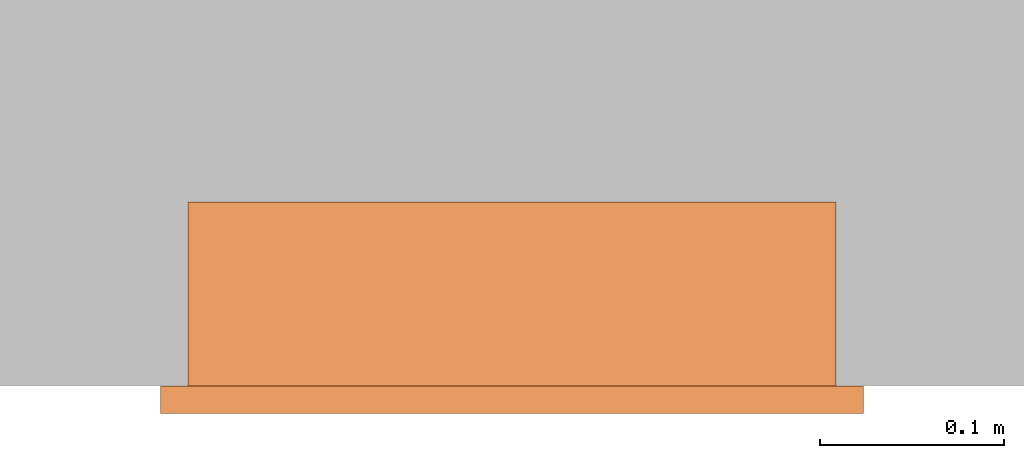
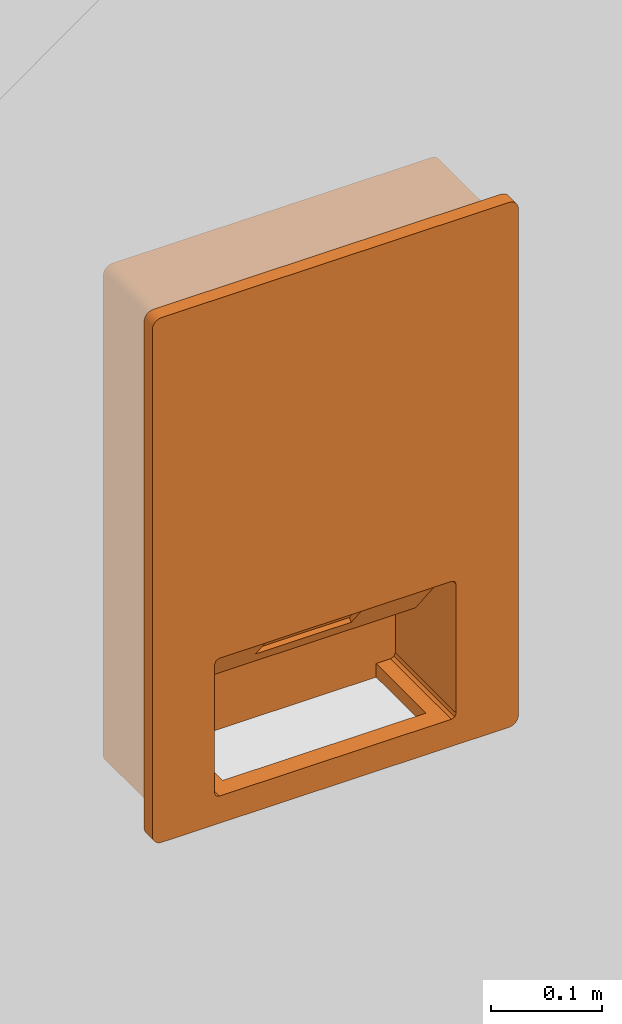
# One storey, part 2 of 2: 1 proxy.
"""IFC2X3 building model written with IfcOpenShell, lengths in millimetres."""

from ifc_helpers import new_model, entity, si_unit, converted_unit, derived_unit, direction, frame, origin, place, context, subcontext, project, spatial, faceted_brep, source, transform, mapped, material, element, save


model = new_model("IFC2X3")

# Units and contexts
model_context = context("Model", 3, precision=0.01, world=origin(), true_north=direction((6.12303176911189e-17, 1.0)))
context_of_model = context(None, 3, precision=0.01, world=origin(), true_north=direction((6.12303176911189e-17, 1.0)))
body_context = subcontext(model_context, "Body", "Model", "MODEL_VIEW")
ifc_project = project(units=[si_unit("LENGTHUNIT", "METRE", prefix="MILLI"), si_unit("AREAUNIT", "SQUARE_METRE"), si_unit("VOLUMEUNIT", "CUBIC_METRE"), converted_unit("PLANEANGLEUNIT", "DEGREE", entity("IfcRatioMeasure", 0.0174532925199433), si_unit("PLANEANGLEUNIT", "RADIAN"), dimensions=[0, 0, 0, 0, 0, 0, 0]), si_unit("MASSUNIT", "GRAM", prefix="KILO"), si_unit("TIMEUNIT", "SECOND"), si_unit("FREQUENCYUNIT", "HERTZ"), si_unit("THERMODYNAMICTEMPERATUREUNIT", "DEGREE_CELSIUS"), derived_unit("THERMALTRANSMITTANCEUNIT", [(si_unit("MASSUNIT", "GRAM", prefix="KILO"), 1), (si_unit("THERMODYNAMICTEMPERATUREUNIT", "KELVIN"), -1), (si_unit("TIMEUNIT", "SECOND"), -3)]), derived_unit("VOLUMETRICFLOWRATEUNIT", [(si_unit("LENGTHUNIT", "METRE"), 3), (si_unit("TIMEUNIT", "SECOND"), -1)]), si_unit("ELECTRICCURRENTUNIT", "AMPERE"), si_unit("ELECTRICVOLTAGEUNIT", "VOLT"), si_unit("POWERUNIT", "WATT"), si_unit("FORCEUNIT", "NEWTON", prefix="KILO"), si_unit("ILLUMINANCEUNIT", "LUX"), si_unit("LUMINOUSFLUXUNIT", "LUMEN"), si_unit("LUMINOUSINTENSITYUNIT", "CANDELA"), si_unit("PRESSUREUNIT", "PASCAL")], contexts=[model_context, context_of_model])

# Site, building, storey
site_placement = place(None, origin())
site = spatial("IfcSite", under=ifc_project, at=site_placement, Name="Default", CompositionType="ELEMENT")
building_placement = place(site_placement, origin())
building = spatial("IfcBuilding", under=site, at=building_placement, CompositionType="ELEMENT")
storey_placement = place(building_placement, origin())
storey = spatial("IfcBuildingStorey", under=building, at=storey_placement, Name="Level 0", CompositionType="ELEMENT", Elevation=0.0)

# Proxy
ifc_material = material(Name="Duten_Metal_BrushedStainlessSteel")
shared_shape = source(origin(), body_context, "Body", "Brep", [
    faceted_brep([(126.0, -182.852540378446, -58.5048094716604), (126.0, -182.852540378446, -95.0), (126.0, -172.852540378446, -95.0), (126.0, -172.852540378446, -64.2783121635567), (126.0, -107.500000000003, -11.5470053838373), (126.0, -107.500000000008, 0.0), (-126.0, -182.852540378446, -58.5048094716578), (-126.0, -107.500000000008, 0.0), (-126.0, -107.500000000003, -11.5470053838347), (-126.0, -172.852540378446, -64.2783121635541), (-126.0, -172.852540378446, -95.0), (-126.0, -182.852540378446, -95.0), (50.0, -122.833516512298, -11.9051654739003), (50.0, -162.714244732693, -42.8691435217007), (-50.0, -162.714244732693, -42.8691435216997), (-50.0, -122.833516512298, -11.9051654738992), (50.0, -119.879952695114, -15.7092721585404), (50.0, -159.760680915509, -46.6732502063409), (-50.0, -159.760680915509, -46.6732502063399), (-50.0, -119.879952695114, -15.7092721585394)], [[[0, 1, 2, 3, 4, 5]], [[6, 7, 8, 9, 10, 11]], [[1, 0, 6, 11]], [[3, 2, 10, 9]], [[4, 3, 9, 8]], [[5, 4, 8, 7]], [[0, 5, 7, 6], [12, 13, 14, 15]], [[12, 16, 17, 13]], [[14, 18, 19, 15]], [[13, 17, 18, 14]], [[17, 16, 19, 18]], [[16, 12, 15, 19]], [[2, 1, 11, 10]]]),
    faceted_brep([(-126.0, -112.500000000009, -95.0), (-126.0, -254.500000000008, -95.0), (-124.535533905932, -258.035533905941, -95.0), (-121.0, -259.500000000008, -95.0), (-106.0, -259.500000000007, -95.0), (-106.0, -274.500000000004, -95.0), (106.0, -274.500000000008, -95.0), (106.0, -259.500000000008, -95.0), (121.0, -259.500000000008, -95.0), (124.535533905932, -258.035533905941, -95.0), (126.0, -254.500000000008, -95.0), (126.0, -112.500000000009, -95.0), (124.535533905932, -108.964466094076, -95.0), (121.0, -107.500000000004, -95.0), (-121.0, -107.500000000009, -95.0), (-124.535533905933, -108.964466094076, -95.0), (-121.0, -107.500000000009, 0.0), (-121.0, -107.500000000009, -39.0384442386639), (-121.0, -107.500000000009, -55.9615557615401), (121.0, -107.500000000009, -55.9615555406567), (121.0, -107.500000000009, -39.0384444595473), (121.0, -107.500000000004, 0.0), (-126.0, -254.500000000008, 0.0), (-126.0, -254.500000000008, -39.038444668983), (-126.0, -254.500000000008, -55.9615560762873), (-126.0, -112.500000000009, -47.500000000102), (-126.0, -112.500000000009, 0.0), (106.0, -259.500000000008, -5.0), (-106.0, -259.500000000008, -5.0), (-121.0, -259.500000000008, -47.4999994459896), (-121.0, -259.500000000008, 0.0), (121.0, -259.500000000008, 0.0), (121.0, -259.500000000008, -39.0384455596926), (121.0, -259.500000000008, -55.9615576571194), (126.0, -112.500000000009, 0.0), (126.0, -112.500000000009, -47.500000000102), (126.0, -254.500000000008, -47.4999994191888), (126.0, -254.500000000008, 0.0), (174.660254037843, 269.499999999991, 0.0), (173.071067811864, 271.571067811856, 0.0), (168.588190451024, 274.159258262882, 0.0), (166.0, 274.499999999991, 0.0), (175.659258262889, 267.088190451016, 0.0), (171.0, 273.160254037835, 0.0), (176.0, 264.499999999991, 0.0), (-166.0, 274.499999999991, 0.0), (-176.0, 264.499999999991, 0.0), (-175.659258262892, 267.088190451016, 0.0), (-174.660254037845, 269.499999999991, 0.0), (-168.588190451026, 274.159258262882, 0.0), (-173.071067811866, 271.571067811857, 0.0), (-171.0, 273.160254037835, 0.0), (-124.535533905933, -108.964466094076, 0.0), (-176.0, -264.500000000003, 0.0), (-166.0, -274.500000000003, 0.0), (-175.659258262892, -267.088190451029, 0.0), (-174.660254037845, -269.500000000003, 0.0), (-168.588190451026, -274.159258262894, 0.0), (-173.071067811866, -271.571067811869, 0.0), (-171.0, -273.160254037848, 0.0), (-124.535533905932, -258.035533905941, 0.0), (166.0, -274.500000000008, 0.0), (124.535533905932, -258.035533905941, 0.0), (176.0, -264.500000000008, 0.0), (175.659258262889, -267.088190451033, 0.0), (174.660254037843, -269.500000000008, 0.0), (168.588190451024, -274.159258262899, 0.0), (173.071067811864, -271.571067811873, 0.0), (171.0, -273.160254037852, 0.0), (124.535533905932, -108.964466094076, 0.0), (-176.0, 264.499999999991, -100.0), (-175.659258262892, 267.088190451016, -100.0), (-174.660254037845, 269.499999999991, -100.0), (-173.071067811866, 271.571067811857, -100.0), (-171.0, 273.160254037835, -100.0), (-168.588190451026, 274.159258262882, -100.0), (-166.0, 274.499999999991, -100.0), (166.0, 274.499999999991, -100.0), (168.588190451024, 274.159258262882, -100.0), (171.0, 273.160254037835, -100.0), (173.071067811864, 271.571067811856, -100.0), (174.660254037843, 269.499999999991, -100.0), (175.659258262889, 267.088190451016, -100.0), (176.0, 264.499999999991, -100.0), (176.0, -264.500000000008, -100.0), (175.659258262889, -267.088190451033, -100.0), (174.660254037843, -269.500000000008, -100.0), (173.071067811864, -271.571067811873, -100.0), (171.0, -273.160254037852, -100.0), (168.588190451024, -274.159258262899, -100.0), (166.0, -274.500000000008, -100.0), (-166.0, -274.500000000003, -100.0), (-168.588190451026, -274.159258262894, -100.0), (-171.0, -273.160254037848, -100.0), (-173.071067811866, -271.571067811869, -100.0), (-174.660254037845, -269.500000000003, -100.0), (-175.659258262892, -267.088190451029, -100.0), (-176.0, -264.500000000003, -100.0), (-106.0, -274.500000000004, -5.0), (106.0, -274.500000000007, -5.0), (-124.471303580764, -108.90138200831, -47.49999698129), (-124.598618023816, -257.971303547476, -47.4999971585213), (124.471303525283, -258.098618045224, -47.4999973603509), (124.471303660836, -108.901382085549, -47.4999967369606)], [[[0, 1, 2, 3, 4, 5, 6, 7, 8, 9, 10, 11, 12, 13, 14, 15]], [[16, 17, 18, 14, 13, 19, 20, 21]], [[22, 23, 24, 1, 0, 25, 26]], [[27, 28, 4, 3, 29, 30, 31, 32, 33, 8, 7]], [[34, 35, 11, 10, 36, 37]], [[38, 39, 40]], [[40, 41, 38]], [[41, 42, 38]], [[43, 40, 39]], [[44, 42, 41]], [[41, 21, 44]], [[41, 45, 21]], [[45, 16, 21]], [[16, 45, 46]], [[46, 45, 47]], [[45, 48, 47]], [[49, 48, 45]], [[50, 48, 49]], [[51, 50, 49]], [[46, 52, 16]], [[46, 26, 52]], [[26, 46, 53]], [[22, 26, 53]], [[54, 22, 53]], [[55, 54, 53]], [[56, 54, 55]], [[57, 54, 56]], [[57, 56, 58]], [[57, 58, 59]], [[60, 22, 54]], [[60, 54, 30]], [[30, 54, 61]], [[61, 31, 30]], [[61, 62, 31]], [[37, 62, 61]], [[61, 63, 37]], [[64, 63, 61]], [[61, 65, 64]], [[61, 66, 65]], [[65, 66, 67]], [[67, 66, 68]], [[44, 34, 63]], [[63, 34, 37]], [[69, 44, 21]], [[34, 44, 69]], [[70, 71, 72, 73, 74, 75, 76, 77, 78, 79, 80, 81, 82, 83, 84, 85, 86, 87, 88, 89, 90, 91, 92, 93, 94, 95, 96, 97]], [[45, 41, 77, 76]], [[53, 46, 70, 97]], [[54, 98, 99]], [[98, 54, 5]], [[99, 61, 54]], [[91, 5, 54]], [[5, 91, 6]], [[90, 6, 91]], [[6, 90, 61]], [[61, 99, 6]], [[44, 63, 84, 83]], [[74, 73, 50, 51]], [[49, 45, 76, 75]], [[75, 74, 51, 49]], [[48, 72, 71, 47]], [[47, 71, 70, 46]], [[48, 50, 73, 72]], [[55, 96, 95, 56]], [[56, 95, 94, 58]], [[53, 97, 96, 55]], [[59, 93, 92, 57]], [[57, 92, 91, 54]], [[58, 94, 93, 59]], [[66, 89, 88, 68]], [[68, 88, 87, 67]], [[90, 89, 66, 61]], [[65, 86, 85, 64]], [[64, 85, 84, 63]], [[67, 87, 86, 65]], [[83, 82, 42, 44]], [[39, 38, 81, 80]], [[81, 38, 42, 82]], [[43, 79, 78, 40]], [[40, 78, 77, 41]], [[39, 80, 79, 43]], [[25, 15, 100]], [[52, 26, 25]], [[15, 25, 0]], [[18, 100, 15]], [[17, 16, 52]], [[15, 14, 18]], [[17, 52, 100]], [[25, 100, 52]], [[17, 100, 18]], [[29, 2, 101]], [[60, 30, 29]], [[2, 29, 3]], [[24, 101, 2]], [[23, 22, 60]], [[2, 1, 24]], [[23, 60, 101]], [[29, 101, 60]], [[23, 101, 24]], [[36, 9, 102]], [[32, 31, 62]], [[9, 8, 33]], [[36, 10, 9]], [[36, 62, 37]], [[32, 62, 102]], [[32, 102, 33]], [[33, 102, 9]], [[36, 102, 62]], [[19, 13, 12]], [[69, 21, 20]], [[35, 69, 103]], [[20, 103, 69]], [[35, 34, 69]], [[12, 11, 35]], [[19, 12, 103]], [[35, 103, 12]], [[19, 103, 20]], [[28, 27, 99, 98]], [[4, 28, 98, 5]], [[27, 7, 6, 99]]]),
    faceted_brep([(189.660254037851, 284.499999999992, 15.0), (188.071067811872, 286.571067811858, 15.0), (183.588190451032, 289.159258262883, 15.0), (181.0, 289.499999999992, 15.0), (190.659258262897, 282.088190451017, 15.0), (186.0, 288.160254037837, 15.0), (191.0, 279.499999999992, 15.0), (121.0, -107.500000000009, 15.0), (-181.0, 289.499999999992, 15.0), (-121.0, -107.500000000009, 15.0), (-191.0, 279.499999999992, 15.0), (-190.659258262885, 282.088190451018, 15.0), (-189.660254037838, 284.499999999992, 15.0), (-183.588190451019, 289.159258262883, 15.0), (-188.071067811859, 286.571067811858, 15.0), (-186.0, 288.160254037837, 15.0), (-124.535533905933, -108.964466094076, 15.0), (-126.0, -112.500000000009, 15.0), (-191.0, -279.500000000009, 15.0), (-126.0, -254.500000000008, 15.0), (-181.0, -289.500000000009, 15.0), (-190.659258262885, -282.088190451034, 15.0), (-189.660254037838, -284.500000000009, 15.0), (-183.588190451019, -289.1592582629, 15.0), (-188.071067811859, -286.571067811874, 15.0), (-186.0, -288.160254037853, 15.0), (-124.535533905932, -258.035533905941, 15.0), (-121.0, -259.500000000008, 15.0), (181.0, -289.500000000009, 15.0), (121.0, -259.500000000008, 15.0), (124.535533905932, -258.035533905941, 15.0), (126.0, -254.500000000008, 15.0), (191.0, -279.500000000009, 15.0), (190.659258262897, -282.088190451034, 15.0), (189.660254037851, -284.500000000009, 15.0), (183.588190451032, -289.1592582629, 15.0), (188.071067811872, -286.571067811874, 15.0), (186.0, -288.160254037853, 15.0), (126.0, -112.500000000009, 15.0), (124.535533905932, -108.964466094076, 15.0), (-189.660254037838, 284.499999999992, 0.0), (-188.071067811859, 286.571067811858, 0.0), (-183.588190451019, 289.159258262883, 0.0), (-181.0, 289.499999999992, 0.0), (-190.659258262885, 282.088190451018, 0.0), (-186.0, 288.160254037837, 0.0), (-191.0, 279.499999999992, 0.0), (-121.0, -107.500000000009, 0.0), (181.0, 289.499999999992, 0.0), (121.0, -107.500000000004, 0.0), (191.0, 279.499999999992, 0.0), (190.659258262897, 282.088190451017, 0.0), (189.660254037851, 284.499999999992, 0.0), (183.588190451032, 289.159258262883, 0.0), (188.071067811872, 286.571067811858, 0.0), (186.0, 288.160254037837, 0.0), (124.535533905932, -108.964466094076, 0.0), (126.0, -112.500000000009, 0.0), (191.0, -279.500000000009, 0.0), (126.0, -254.500000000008, 0.0), (181.0, -289.500000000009, 0.0), (190.659258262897, -282.088190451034, 0.0), (189.660254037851, -284.500000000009, 0.0), (183.588190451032, -289.1592582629, 0.0), (188.071067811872, -286.571067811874, 0.0), (186.0, -288.160254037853, 0.0), (124.535533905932, -258.035533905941, 0.0), (121.0, -259.500000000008, 0.0), (-181.0, -289.500000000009, 0.0), (-121.0, -259.500000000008, 0.0), (-124.535533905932, -258.035533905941, 0.0), (-126.0, -254.500000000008, 0.0), (-191.0, -279.500000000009, 0.0), (-190.659258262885, -282.088190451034, 0.0), (-189.660254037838, -284.500000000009, 0.0), (-183.588190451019, -289.1592582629, 0.0), (-188.071067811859, -286.571067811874, 0.0), (-186.0, -288.160254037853, 0.0), (-126.0, -112.500000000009, 0.0), (-124.535533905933, -108.964466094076, 0.0)], [[[0, 1, 2]], [[2, 3, 0]], [[3, 4, 0]], [[5, 2, 1]], [[6, 4, 3]], [[3, 7, 6]], [[3, 8, 7]], [[8, 9, 7]], [[9, 8, 10]], [[10, 8, 11]], [[8, 12, 11]], [[13, 12, 8]], [[14, 12, 13]], [[15, 14, 13]], [[10, 16, 9]], [[10, 17, 16]], [[17, 10, 18]], [[19, 17, 18]], [[20, 19, 18]], [[21, 20, 18]], [[22, 20, 21]], [[23, 20, 22]], [[23, 22, 24]], [[23, 24, 25]], [[26, 19, 20]], [[26, 20, 27]], [[27, 20, 28]], [[28, 29, 27]], [[28, 30, 29]], [[31, 30, 28]], [[28, 32, 31]], [[33, 32, 28]], [[28, 34, 33]], [[28, 35, 34]], [[34, 35, 36]], [[36, 35, 37]], [[6, 38, 32]], [[32, 38, 31]], [[39, 6, 7]], [[38, 6, 39]], [[40, 41, 42]], [[42, 43, 40]], [[43, 44, 40]], [[45, 42, 41]], [[46, 44, 43]], [[43, 47, 46]], [[43, 48, 47]], [[48, 49, 47]], [[49, 48, 50]], [[50, 48, 51]], [[48, 52, 51]], [[53, 52, 48]], [[54, 52, 53]], [[55, 54, 53]], [[50, 56, 49]], [[50, 57, 56]], [[57, 50, 58]], [[59, 57, 58]], [[60, 59, 58]], [[61, 60, 58]], [[62, 60, 61]], [[63, 60, 62]], [[63, 62, 64]], [[63, 64, 65]], [[66, 59, 60]], [[66, 60, 67]], [[67, 60, 68]], [[68, 69, 67]], [[68, 70, 69]], [[71, 70, 68]], [[68, 72, 71]], [[73, 72, 68]], [[68, 74, 73]], [[68, 75, 74]], [[74, 75, 76]], [[76, 75, 77]], [[46, 78, 72]], [[72, 78, 71]], [[79, 46, 47]], [[78, 46, 79]], [[8, 3, 48, 43]], [[18, 10, 46, 72]], [[28, 20, 68, 60]], [[6, 32, 58, 50]], [[47, 49, 7, 9]], [[71, 78, 17, 19]], [[67, 69, 27, 29]], [[59, 31, 38, 57]], [[13, 8, 43, 42]], [[15, 13, 42, 45]], [[14, 15, 45, 41]], [[12, 14, 41, 40]], [[11, 12, 40, 44]], [[10, 11, 44, 46]], [[21, 18, 72, 73]], [[22, 21, 73, 74]], [[24, 22, 74, 76]], [[25, 24, 76, 77]], [[23, 25, 77, 75]], [[20, 23, 75, 68]], [[35, 28, 60, 63]], [[37, 35, 63, 65]], [[36, 37, 65, 64]], [[34, 36, 64, 62]], [[33, 34, 62, 61]], [[32, 33, 61, 58]], [[4, 6, 50, 51]], [[0, 4, 51, 52]], [[1, 0, 52, 54]], [[5, 1, 54, 55]], [[2, 5, 55, 53]], [[3, 2, 53, 48]], [[16, 79, 47, 9]], [[17, 78, 79, 16]], [[26, 70, 71, 19]], [[27, 69, 70, 26]], [[30, 66, 67, 29]], [[31, 59, 66, 30]], [[39, 56, 57, 38]], [[7, 49, 56, 39]]]),
])
proxy_placement = place(storey_placement, frame((-4234.05975115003, -159.822778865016, 1717.31424865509), z_axis=(0.0, -1.0, 0.0), x_axis=(1.0, 0.0, 0.0)))
element("IfcBuildingElementProxy", 1, at=proxy_placement, inside=storey, material=ifc_material, Name="Duten_HndDriers_M440:High Speed Hand Dryer", ObjectType="High Speed Hand Dryer", CompositionType="ELEMENT", context=body_context, shape_type="MappedRepresentation", body=[
    mapped(shared_shape, transform((0.0, 0.0, 0.0), scale=1.0)),
])

save(model, "model.ifc")
